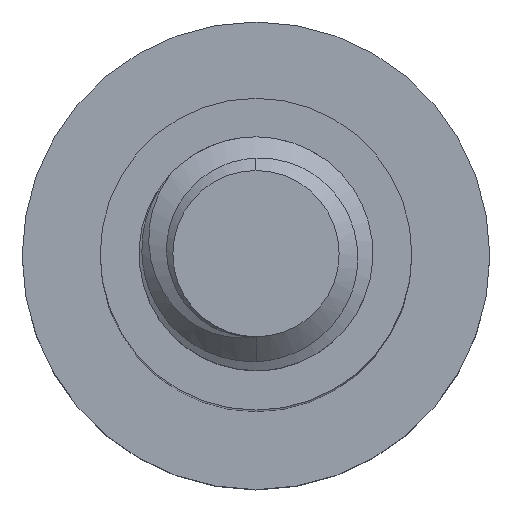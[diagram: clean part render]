
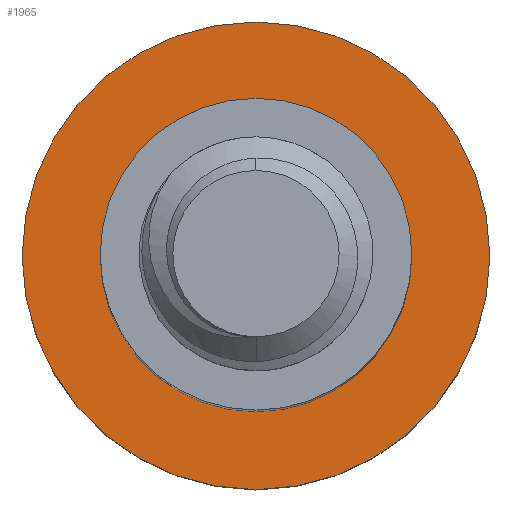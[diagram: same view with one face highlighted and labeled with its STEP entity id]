
A CAD part, top view. The second image highlights one B-rep face of the part: STEP entity #1965.
In plain terms, the highlighted planar face has unit normal (0, 0, 1).
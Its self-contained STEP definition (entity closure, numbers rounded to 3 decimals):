
#38 = CARTESIAN_POINT ( 'NONE',  ( 3., 0., -12. ) ) ;
#86 = DIRECTION ( 'NONE',  ( -1., 0., 0. ) ) ;
#162 = FACE_BOUND ( 'NONE', #1520, .T. ) ;
#310 = EDGE_CURVE ( 'NONE', #1892, #1303, #1637, .T. ) ;
#365 = AXIS2_PLACEMENT_3D ( 'NONE', #2179, #1830, #86 ) ;
#438 = DIRECTION ( 'NONE',  ( -1., 0., 0. ) ) ;
#500 = CARTESIAN_POINT ( 'NONE',  ( -3., 0., -12. ) ) ;
#515 = CIRCLE ( 'NONE', #365, 3. ) ;
#555 = ORIENTED_EDGE ( 'NONE', *, *, #941, .T. ) ;
#567 = CARTESIAN_POINT ( 'NONE',  ( 0., 0., -12. ) ) ;
#584 = DIRECTION ( 'NONE',  ( 0., 0., -1. ) ) ;
#734 = AXIS2_PLACEMENT_3D ( 'NONE', #934, #2148, #438 ) ;
#738 = VERTEX_POINT ( 'NONE', #38 ) ;
#869 = VERTEX_POINT ( 'NONE', #500 ) ;
#934 = CARTESIAN_POINT ( 'NONE',  ( 0., 0., -12. ) ) ;
#941 = EDGE_CURVE ( 'NONE', #1303, #1892, #1212, .T. ) ;
#985 = AXIS2_PLACEMENT_3D ( 'NONE', #1214, #1365, #2193 ) ;
#995 = ORIENTED_EDGE ( 'NONE', *, *, #1586, .F. ) ;
#1119 = DIRECTION ( 'NONE',  ( -1., 0., 0. ) ) ;
#1180 = AXIS2_PLACEMENT_3D ( 'NONE', #2125, #1975, #1119 ) ;
#1188 = PLANE ( 'NONE',  #985 ) ;
#1212 = CIRCLE ( 'NONE', #1453, 2. ) ;
#1214 = CARTESIAN_POINT ( 'NONE',  ( 0., 0., -12. ) ) ;
#1267 = DIRECTION ( 'NONE',  ( -1., 0., 0. ) ) ;
#1291 = ORIENTED_EDGE ( 'NONE', *, *, #2226, .F. ) ;
#1303 = VERTEX_POINT ( 'NONE', #1961 ) ;
#1365 = DIRECTION ( 'NONE',  ( 0., 0., -1. ) ) ;
#1453 = AXIS2_PLACEMENT_3D ( 'NONE', #567, #584, #1267 ) ;
#1520 = EDGE_LOOP ( 'NONE', ( #555, #1947 ) ) ;
#1558 = EDGE_LOOP ( 'NONE', ( #1291, #995 ) ) ;
#1586 = EDGE_CURVE ( 'NONE', #869, #738, #1853, .T. ) ;
#1637 = CIRCLE ( 'NONE', #734, 2. ) ;
#1701 = CARTESIAN_POINT ( 'NONE',  ( 2., 0., -12. ) ) ;
#1830 = DIRECTION ( 'NONE',  ( 0., 0., -1. ) ) ;
#1853 = CIRCLE ( 'NONE', #1180, 3. ) ;
#1892 = VERTEX_POINT ( 'NONE', #1701 ) ;
#1947 = ORIENTED_EDGE ( 'NONE', *, *, #310, .T. ) ;
#1961 = CARTESIAN_POINT ( 'NONE',  ( -2., 0., -12. ) ) ;
#1965 = ADVANCED_FACE ( 'NONE', ( #162, #2062 ), #1188, .F. ) ;
#1975 = DIRECTION ( 'NONE',  ( 0., 0., -1. ) ) ;
#2062 = FACE_OUTER_BOUND ( 'NONE', #1558, .T. ) ;
#2125 = CARTESIAN_POINT ( 'NONE',  ( 0., 0., -12. ) ) ;
#2148 = DIRECTION ( 'NONE',  ( 0., 0., -1. ) ) ;
#2179 = CARTESIAN_POINT ( 'NONE',  ( 0., 0., -12. ) ) ;
#2193 = DIRECTION ( 'NONE',  ( -1., 0., 0. ) ) ;
#2226 = EDGE_CURVE ( 'NONE', #738, #869, #515, .T. ) ;
